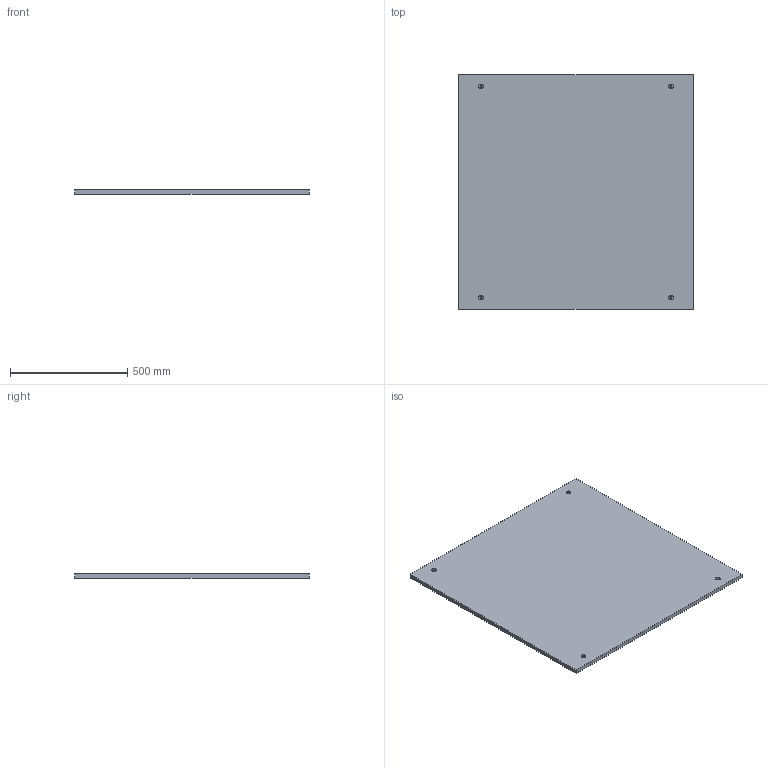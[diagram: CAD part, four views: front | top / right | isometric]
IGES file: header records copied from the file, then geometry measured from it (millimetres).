
Global section: file name: basic 1000x1000 spoilboard v9; native system: unknown; preprocessor: unknown; author: unknown; organization: unknown; date: 20230704.115723; units: millimetre
Bounding box: 1000 x 1000 x 18 mm (x, y, z)
Volume: 17986223.4 mm3; surface area: 2074915.5 mm2
Topology: 1 solids, 1 shells, 18 faces, 36 edges, 24 vertices
Faces by surface type: bspline 18
